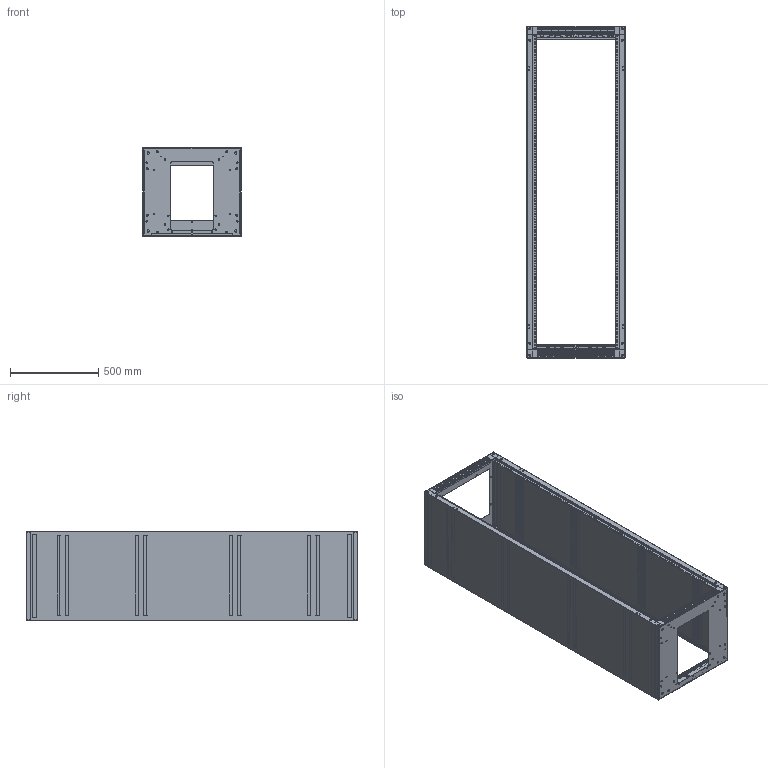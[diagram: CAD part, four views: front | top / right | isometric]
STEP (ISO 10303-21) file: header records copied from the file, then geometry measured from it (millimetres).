
FILE_DESCRIPTION((''),'2;1');
FILE_NAME('AERK-4020LRD_ASM','2016-07-29T',('rrenderos'),('Middle Atlantic Products'),'PRO/ENGINEER BY PARAMETRIC TECHNOLOGY CORPORATION, 2014310','PRO/ENGINEER BY PARAMETRIC TECHNOLOGY CORPORATION, 2014310','');
FILE_SCHEMA(('CONFIG_CONTROL_DESIGN'));
Length unit declared in the file: inch
Products named in the file (15): PERK20B_ASM; BE4020SL; BERRB20; BERK20LWB; PE4020SL_ASM; BE4020SR; PE4020SR_ASM; BERK20T; PERK20T_ASM; MERK-4020_ASM; BERK20B; PVRR40; PKEKOPH; PKEKOPUHFH; AERK-4020LRD_ASM
Assembly tree (27 placements, depth 4):
  AERK-4020LRD_ASM
    MERK-4020_ASM
      PERK20B_ASM
      PE4020SL_ASM
        BE4020SL
        BERRB20  x4
        BERK20LWB  x2
      PE4020SR_ASM
        BE4020SR
        BERRB20  x4
        BERK20LWB  x2
      PERK20T_ASM
        BERK20T
    BERK20B
    PVRR40  x2
    PKEKOPH  x2
    PKEKOPUHFH  x2
Bounding box: 558.8 x 1882.65 x 508 mm (x, y, z)
Volume: 5916987.4 mm3; surface area: 7342164.2 mm2
Topology: 34 solids, 34 shells, 2590 faces, 6750 edges, 4220 vertices
Faces by surface type: plane 1268, cylinder 1262, bspline 60
Entity records: 52081 total; most frequent: CARTESIAN_POINT 10262, DIRECTION 8898, ORIENTED_EDGE 8360, EDGE_CURVE 4180, AXIS2_PLACEMENT_3D 3223, VERTEX_POINT 2664, VECTOR 2452, LINE 2452
